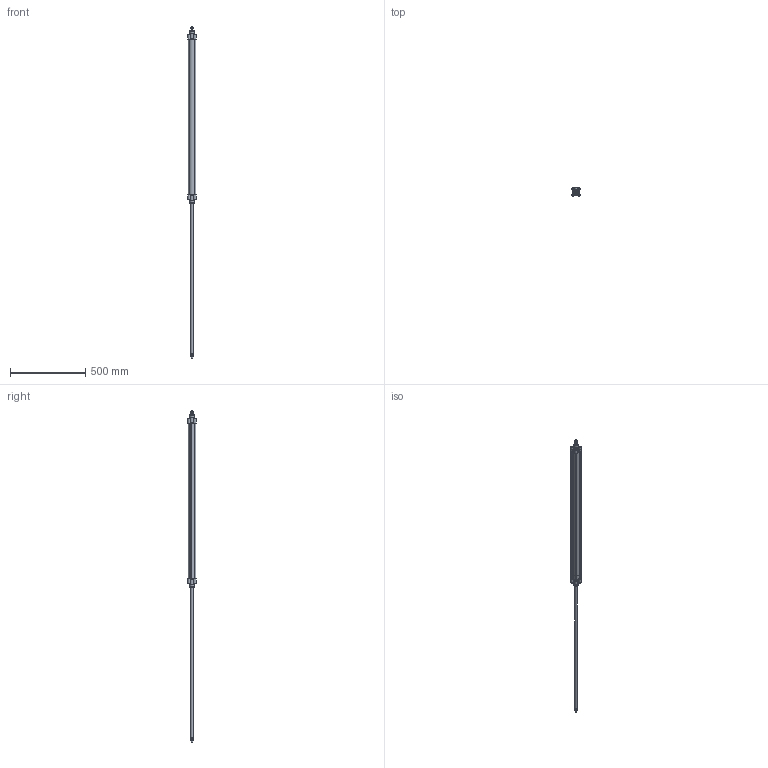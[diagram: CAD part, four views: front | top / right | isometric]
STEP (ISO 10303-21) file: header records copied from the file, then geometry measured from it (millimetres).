
FILE_DESCRIPTION((''),'2;1');
FILE_NAME('I:\Area Tecnica\Disegni\VARIE-3D\Componenti\ECOLIGHT\02\stp\139#_40_1000_02.iam.stp','2012-01-28T09:39:38',(''),(''),'Autodesk Inventor 2012','Autodesk Inventor 2012','');
FILE_SCHEMA(('AUTOMOTIVE_DESIGN { 1 0 10303 214 1 1 1 1 }'));
Length unit declared in the file: millimetre
Products named in the file (5): 139#_40_1000_02; CPL040_004-1000; CPL040-001-01; CPL_40SP_1000; 1320_40_18F
Assembly tree (6 placements, depth 2):
  139#_40_1000_02
    CPL040_004-1000
    CPL040-001-01  x2
    CPL_40SP_1000
    1320_40_18F  x2
Bounding box: 54 x 54 x 2213 mm (x, y, z)
Volume: 1295280.7 mm3; surface area: 708665.4 mm2
Topology: 6 solids, 6 shells, 351 faces, 860 edges, 564 vertices
Faces by surface type: plane 211, cylinder 98, cone 40, torus 2
Full cylindrical faces by diameter (mm): 5 x8, 5.5 x4, 8 x2, 10 x8, 10.5 x10, 10.8 x2, 11.6 x2, 12 x2, 15.5 x2, 16 x4, 30 x2, 35 x2, 40 x4
Entity records: 7104 total; most frequent: CARTESIAN_POINT 1295, DIRECTION 1162, ORIENTED_EDGE 1084, EDGE_CURVE 542, AXIS2_PLACEMENT_3D 413, VERTEX_POINT 380, VECTOR 336, LINE 336
